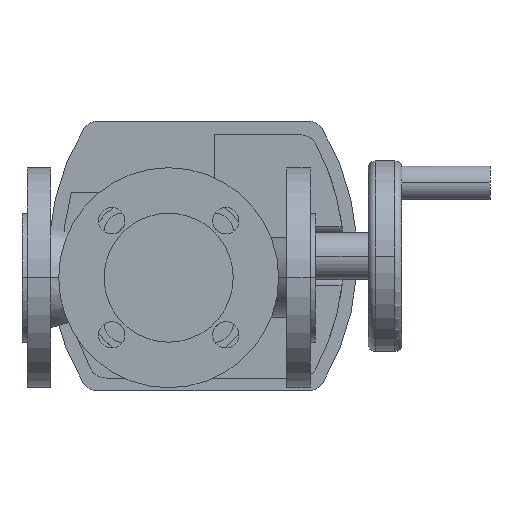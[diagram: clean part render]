
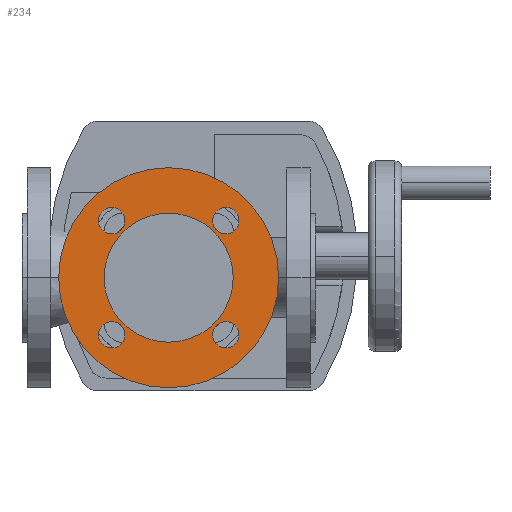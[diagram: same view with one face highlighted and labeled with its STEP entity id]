
A CAD part, front view. The second image highlights one B-rep face of the part: STEP entity #234.
In plain terms, the highlighted planar face has unit normal (0, -1, 0).
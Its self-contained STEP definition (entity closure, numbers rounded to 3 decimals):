
#234 = ADVANCED_FACE( '', ( #606, #607, #608, #609, #610, #611 ), #612, .F. );
#606 = FACE_BOUND( '', #1139, .T. );
#607 = FACE_BOUND( '', #1140, .T. );
#608 = FACE_BOUND( '', #1141, .T. );
#609 = FACE_BOUND( '', #1142, .T. );
#610 = FACE_OUTER_BOUND( '', #1143, .T. );
#611 = FACE_BOUND( '', #1144, .T. );
#612 = PLANE( '', #1145 );
#1139 = EDGE_LOOP( '', ( #2285, #2286 ) );
#1140 = EDGE_LOOP( '', ( #2287, #2288 ) );
#1141 = EDGE_LOOP( '', ( #2289, #2290 ) );
#1142 = EDGE_LOOP( '', ( #2291, #2292 ) );
#1143 = EDGE_LOOP( '', ( #2293, #2294 ) );
#1144 = EDGE_LOOP( '', ( #2295, #2296 ) );
#1145 = AXIS2_PLACEMENT_3D( '', #2297, #2298, #2299 );
#2285 = ORIENTED_EDGE( '', *, *, #3493, .T. );
#2286 = ORIENTED_EDGE( '', *, *, #3494, .T. );
#2287 = ORIENTED_EDGE( '', *, *, #3489, .T. );
#2288 = ORIENTED_EDGE( '', *, *, #3496, .T. );
#2289 = ORIENTED_EDGE( '', *, *, #3485, .T. );
#2290 = ORIENTED_EDGE( '', *, *, #3498, .T. );
#2291 = ORIENTED_EDGE( '', *, *, #3481, .T. );
#2292 = ORIENTED_EDGE( '', *, *, #3500, .T. );
#2293 = ORIENTED_EDGE( '', *, *, #3385, .F. );
#2294 = ORIENTED_EDGE( '', *, *, #3660, .F. );
#2295 = ORIENTED_EDGE( '', *, *, #3383, .F. );
#2296 = ORIENTED_EDGE( '', *, *, #3661, .F. );
#2297 = CARTESIAN_POINT( '', ( 100., -86.5, 0. ) );
#2298 = DIRECTION( '', ( 0., 1., 0. ) );
#2299 = DIRECTION( '', ( 0., 0., 1. ) );
#3383 = EDGE_CURVE( '', #4011, #4007, #4013, .T. );
#3385 = EDGE_CURVE( '', #4014, #4017, #4018, .T. );
#3481 = EDGE_CURVE( '', #4199, #4203, #4205, .T. );
#3485 = EDGE_CURVE( '', #4207, #4211, #4213, .T. );
#3489 = EDGE_CURVE( '', #4215, #4219, #4221, .T. );
#3493 = EDGE_CURVE( '', #4223, #4227, #4229, .T. );
#3494 = EDGE_CURVE( '', #4227, #4223, #4230, .T. );
#3496 = EDGE_CURVE( '', #4219, #4215, #4232, .T. );
#3498 = EDGE_CURVE( '', #4211, #4207, #4234, .T. );
#3500 = EDGE_CURVE( '', #4203, #4199, #4236, .T. );
#3660 = EDGE_CURVE( '', #4017, #4014, #4472, .T. );
#3661 = EDGE_CURVE( '', #4007, #4011, #4473, .T. );
#4007 = VERTEX_POINT( '', #5185 );
#4011 = VERTEX_POINT( '', #5190 );
#4013 = CIRCLE( '', #5193, 44. );
#4014 = VERTEX_POINT( '', #5194 );
#4017 = VERTEX_POINT( '', #5198 );
#4018 = CIRCLE( '', #5199, 75. );
#4199 = VERTEX_POINT( '', #5803 );
#4203 = VERTEX_POINT( '', #5808 );
#4205 = CIRCLE( '', #5811, 9. );
#4207 = VERTEX_POINT( '', #5813 );
#4211 = VERTEX_POINT( '', #5818 );
#4213 = CIRCLE( '', #5821, 9. );
#4215 = VERTEX_POINT( '', #5823 );
#4219 = VERTEX_POINT( '', #5828 );
#4221 = CIRCLE( '', #5831, 9. );
#4223 = VERTEX_POINT( '', #5833 );
#4227 = VERTEX_POINT( '', #5838 );
#4229 = CIRCLE( '', #5841, 9. );
#4230 = CIRCLE( '', #5842, 9. );
#4232 = CIRCLE( '', #5844, 9. );
#4234 = CIRCLE( '', #5846, 9. );
#4236 = CIRCLE( '', #5848, 9. );
#4472 = CIRCLE( '', #6429, 75. );
#4473 = CIRCLE( '', #6430, 44. );
#5185 = CARTESIAN_POINT( '', ( 144., -86.5, 0. ) );
#5190 = CARTESIAN_POINT( '', ( 56., -86.5, 0. ) );
#5193 = AXIS2_PLACEMENT_3D( '', #7126, #7127, #7128 );
#5194 = CARTESIAN_POINT( '', ( 175., -86.5, 0. ) );
#5198 = CARTESIAN_POINT( '', ( 25., -86.5, 0. ) );
#5199 = AXIS2_PLACEMENT_3D( '', #7130, #7131, #7132 );
#5803 = CARTESIAN_POINT( '', ( 52.109, -86.5, -38.891 ) );
#5808 = CARTESIAN_POINT( '', ( 70.109, -86.5, -38.891 ) );
#5811 = AXIS2_PLACEMENT_3D( '', #7321, #7322, #7323 );
#5813 = CARTESIAN_POINT( '', ( 52.109, -86.5, 38.891 ) );
#5818 = CARTESIAN_POINT( '', ( 70.109, -86.5, 38.891 ) );
#5821 = AXIS2_PLACEMENT_3D( '', #7329, #7330, #7331 );
#5823 = CARTESIAN_POINT( '', ( 129.891, -86.5, 38.891 ) );
#5828 = CARTESIAN_POINT( '', ( 147.891, -86.5, 38.891 ) );
#5831 = AXIS2_PLACEMENT_3D( '', #7337, #7338, #7339 );
#5833 = CARTESIAN_POINT( '', ( 129.891, -86.5, -38.891 ) );
#5838 = CARTESIAN_POINT( '', ( 147.891, -86.5, -38.891 ) );
#5841 = AXIS2_PLACEMENT_3D( '', #7345, #7346, #7347 );
#5842 = AXIS2_PLACEMENT_3D( '', #7348, #7349, #7350 );
#5844 = AXIS2_PLACEMENT_3D( '', #7354, #7355, #7356 );
#5846 = AXIS2_PLACEMENT_3D( '', #7360, #7361, #7362 );
#5848 = AXIS2_PLACEMENT_3D( '', #7366, #7367, #7368 );
#6429 = AXIS2_PLACEMENT_3D( '', #7658, #7659, #7660 );
#6430 = AXIS2_PLACEMENT_3D( '', #7661, #7662, #7663 );
#7126 = CARTESIAN_POINT( '', ( 100., -86.5, 0. ) );
#7127 = DIRECTION( '', ( 0., -1., 0. ) );
#7128 = DIRECTION( '', ( 1., 0., 0. ) );
#7130 = CARTESIAN_POINT( '', ( 100., -86.5, 0. ) );
#7131 = DIRECTION( '', ( 0., 1., 0. ) );
#7132 = DIRECTION( '', ( 1., 0., 0. ) );
#7321 = CARTESIAN_POINT( '', ( 61.109, -86.5, -38.891 ) );
#7322 = DIRECTION( '', ( 0., 1., 0. ) );
#7323 = DIRECTION( '', ( -1., 0., 0. ) );
#7329 = CARTESIAN_POINT( '', ( 61.109, -86.5, 38.891 ) );
#7330 = DIRECTION( '', ( 0., 1., 0. ) );
#7331 = DIRECTION( '', ( -1., 0., 0. ) );
#7337 = CARTESIAN_POINT( '', ( 138.891, -86.5, 38.891 ) );
#7338 = DIRECTION( '', ( 0., 1., 0. ) );
#7339 = DIRECTION( '', ( -1., 0., 0. ) );
#7345 = CARTESIAN_POINT( '', ( 138.891, -86.5, -38.891 ) );
#7346 = DIRECTION( '', ( 0., 1., 0. ) );
#7347 = DIRECTION( '', ( -1., 0., 0. ) );
#7348 = CARTESIAN_POINT( '', ( 138.891, -86.5, -38.891 ) );
#7349 = DIRECTION( '', ( 0., 1., 0. ) );
#7350 = DIRECTION( '', ( -1., 0., 0. ) );
#7354 = CARTESIAN_POINT( '', ( 138.891, -86.5, 38.891 ) );
#7355 = DIRECTION( '', ( 0., 1., 0. ) );
#7356 = DIRECTION( '', ( -1., 0., 0. ) );
#7360 = CARTESIAN_POINT( '', ( 61.109, -86.5, 38.891 ) );
#7361 = DIRECTION( '', ( 0., 1., 0. ) );
#7362 = DIRECTION( '', ( -1., 0., 0. ) );
#7366 = CARTESIAN_POINT( '', ( 61.109, -86.5, -38.891 ) );
#7367 = DIRECTION( '', ( 0., 1., 0. ) );
#7368 = DIRECTION( '', ( -1., 0., 0. ) );
#7658 = CARTESIAN_POINT( '', ( 100., -86.5, 0. ) );
#7659 = DIRECTION( '', ( 0., 1., 0. ) );
#7660 = DIRECTION( '', ( 1., 0., 0. ) );
#7661 = CARTESIAN_POINT( '', ( 100., -86.5, 0. ) );
#7662 = DIRECTION( '', ( 0., -1., 0. ) );
#7663 = DIRECTION( '', ( 1., 0., 0. ) );
